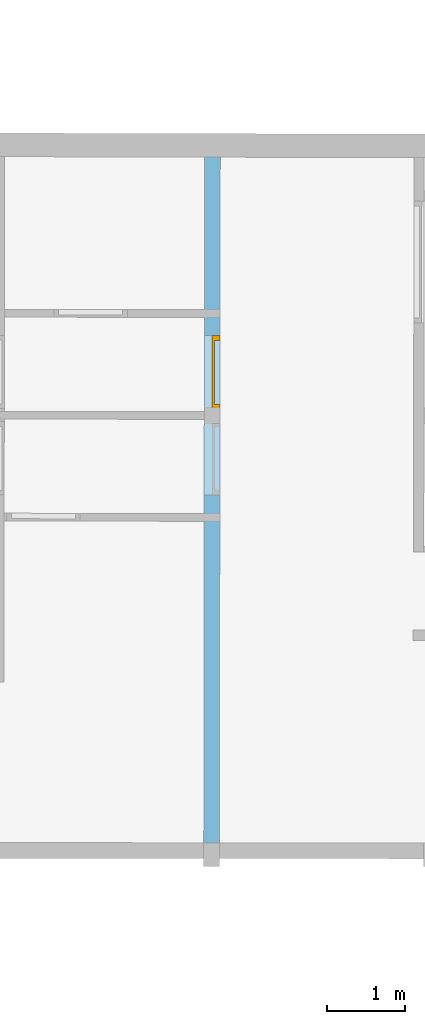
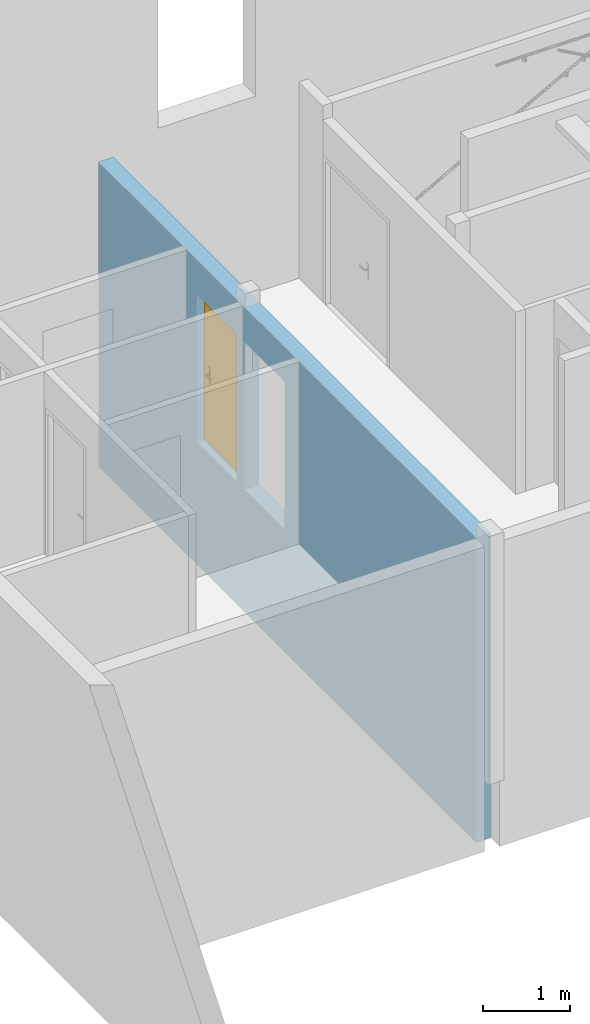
# One storey, part 16 of 24: 1 door, 4 openings, plus 1 element that does not belong to this part.
"""IFC2X3 building model written with IfcOpenShell, lengths in metres."""

from ifc_helpers import new_model, entity, si_unit, converted_unit, derived_unit, direction, frame, frame_2d, origin, place, context, subcontext, project, spatial, polyline, rectangle, outline, extrude, faceted_brep, source, transform, mapped, material, material_list, layer, layer_set, layer_usage, type_object, type_shapes, element, fill, save


model = new_model("IFC2X3")

# Units and contexts
model_context = context("Model", 3, precision=1e-05, world=origin(), true_north=direction((6.123233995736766e-17, 1.0)))
body_context = subcontext(model_context, "Body", "Model", "MODEL_VIEW")
ifc_project = project(units=[si_unit("LENGTHUNIT", "METRE"), si_unit("AREAUNIT", "SQUARE_METRE"), converted_unit("PLANEANGLEUNIT", "DEGREE", entity("IfcPlaneAngleMeasure", 0.017453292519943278), si_unit("PLANEANGLEUNIT", "RADIAN"), dimensions=[0, 0, 0, 0, 0, 0, 0]), derived_unit("THERMALTRANSMITTANCEUNIT", [(si_unit("MASSUNIT", "GRAM", prefix="KILO"), 1), (si_unit("THERMODYNAMICTEMPERATUREUNIT", "KELVIN"), -1), (si_unit("TIMEUNIT", "SECOND"), -3)])], contexts=[model_context])

# Site, building, storey
site_placement = place(None, frame((1253.6752467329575, 2072.143113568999, 91.49999999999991), z_axis=(0.0, 0.0, 1.0), x_axis=(0.7237211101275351, 0.6900925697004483, 0.0)))
site = spatial("IfcSite", under=ifc_project, at=site_placement, Name="Surface", CompositionType="ELEMENT")
building_placement = place(site_placement, origin())
building = spatial("IfcBuilding", under=site, at=building_placement, CompositionType="ELEMENT")
storey_placement = place(building_placement, frame((0.0, 0.0, -7.049999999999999)))
storey = spatial("IfcBuildingStorey", under=building, at=storey_placement, Name="R-1", CompositionType="ELEMENT", Elevation=-7.049999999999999)

# Wall, openings, door
ifc_material_1 = material(Name="Béton - Béton coulé sur place")
ifc_layer = layer(ifc_material_1, 0.2)
ifc_layer_set = layer_set([ifc_layer], Name="Mur de base:MUR 20")
ifc_layer_usage = layer_usage(ifc_layer_set, "AXIS2", "NEGATIVE", 0.1)
wall_type = type_object("IfcWallType", Name="Mur de base:MUR 20", PredefinedType="STANDARD", material=ifc_layer_set)
wall_placement = place(storey_placement, frame((170.03077512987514, 23.668757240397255, -1.0), z_axis=(0.0, 0.0, 1.0), x_axis=(-0.6909838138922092, -0.7228702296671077, 0.0)))
wall = element("IfcWallStandardCase", 1, at=wall_placement, inside=storey, type_object=wall_type, material=ifc_layer_usage, Name="Mur de base:MUR 20", ObjectType="Mur de base:MUR 20", context=body_context, shape_type="SweptSolid", body=[
    extrude(outline(polyline([(-0.10000000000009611, -4.371726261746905), (0.09999999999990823, -4.371726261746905), (0.1000000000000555, 4.3715890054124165), (-0.09999999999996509, 4.371863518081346), (-0.10000000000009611, -4.371726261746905)])), frame((4.371863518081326, 0.0, 0.0), z_axis=(0.0, 0.0, 1.0), x_axis=(0.0, 1.0, 0.0)), (0.0, 0.0, 1.0), 4.299999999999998),
])
opening_1_placement = place(storey_placement, frame((170.03077512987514, 23.668757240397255, -1.0), z_axis=(0.0, 0.0, 1.0), x_axis=(-0.6909838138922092, -0.7228702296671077, 0.0)))
element("IfcOpeningElement", 2, at=opening_1_placement, cuts=wall, Name="Mur de base:MUR 20:1", ObjectType="Opening", context=body_context, shape_type="SweptSolid", body=[
    extrude(rectangle(XDim=2.0850000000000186, YDim=0.9349999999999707, at=frame_2d((-5.551115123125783e-16, -1.582067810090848e-15), x_axis=(1.0, 0.0))), frame((3.8435897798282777, 0.09999999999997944, 2.7725000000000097), z_axis=(0.0, -1.0, 0.0), x_axis=(0.0, 0.0, 1.0)), (0.0, 0.0, 1.0), 0.19999999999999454),
])
opening_2_placement = place(storey_placement, frame((170.03077512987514, 23.668757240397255, -1.0), z_axis=(0.0, 0.0, 1.0), x_axis=(-0.6909838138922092, -0.7228702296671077, 0.0)))
element("IfcOpeningElement", 3, at=opening_2_placement, cuts=wall, Name="Mur de base:MUR 20:2", ObjectType="Opening", context=body_context, shape_type="SweptSolid", body=[
    extrude(rectangle(XDim=2.0850000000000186, YDim=0.9350000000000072, at=frame_2d((-1.6681100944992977e-14, 5.551115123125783e-16), x_axis=(0.0, 1.0))), frame((2.7435897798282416, 0.09999999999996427, 2.772500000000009), z_axis=(0.0, -1.0, 0.0), x_axis=(1.0, 0.0, 0.0)), (0.0, 0.0, 1.0), 0.1999999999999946),
])
opening_3_placement = place(wall_placement, frame((3.2110897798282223, 0.10000000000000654, 1.7299999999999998)))
opening_3 = element("IfcOpeningElement", 4, at=opening_3_placement, cuts=wall, Name="OMD_Porte 1V tunnel:80x204:1", ObjectType="Opening", context=body_context, shape_type="SweptSolid", body=[
    extrude(rectangle(XDim=2.0850000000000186, YDim=0.9349999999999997, at=frame_2d((1.0425000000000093, 0.46749999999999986), x_axis=(1.0, 0.0))), frame((0.0, 0.0, 0.0), z_axis=(0.0, -1.0, 0.0), x_axis=(0.0, 0.0, 1.0)), (0.0, 0.0, 1.0), 0.19999999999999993),
])
opening_4_placement = place(wall_placement, frame((4.311089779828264, 0.1000000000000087, 1.7299999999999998)))
element("IfcOpeningElement", 5, at=opening_4_placement, cuts=wall, Name="OMD_Porte 1V tunnel:80x204:1", ObjectType="Opening", context=body_context, shape_type="SweptSolid", body=[
    extrude(rectangle(XDim=2.0850000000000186, YDim=0.9349999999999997, at=frame_2d((1.0425000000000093, 0.46749999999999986), x_axis=(1.0, 0.0))), frame((0.0, 0.0, 0.0), z_axis=(0.0, -1.0, 0.0), x_axis=(0.0, 0.0, 1.0)), (0.0, 0.0, 1.0), 0.19999999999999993),
])
ifc_material_2 = material(Name="Porte - Poignée")
ifc_material_3 = material(Name="OMD_Peinture mur")
ifc_material_4 = material(Name="OMD_Bois")
ifc_material_list = material_list([ifc_material_2, ifc_material_3, ifc_material_4])
door_style = type_object("IfcDoorStyle", Name="OMD_Porte 1V tunnel:80x204", ConstructionType="NOTDEFINED", OperationType="NOTDEFINED", ParameterTakesPrecedence=False, Sizeable=False, material=ifc_material_list)
shared_shape = source(origin(), body_context, "Body", "Brep", [
    faceted_brep([(0.21297470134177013, 0.13500000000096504, 1.0077804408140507), (0.2090000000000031, 0.13500000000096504, 1.0069999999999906), (0.20899999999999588, 0.13500000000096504, 0.9929999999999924), (0.21297470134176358, 0.13500000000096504, 0.9922195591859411), (0.2170252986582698, 0.13500000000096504, 0.9922195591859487), (0.2210000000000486, 0.13500000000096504, 0.9930000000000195), (0.2210000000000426, 0.13500000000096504, 1.0069999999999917), (0.21702529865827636, 0.13500000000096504, 1.007780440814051), (0.22100000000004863, 0.15748520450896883, 0.9930000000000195), (0.2210000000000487, 0.15748520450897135, 1.0069999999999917), (0.21702529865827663, 0.15913157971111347, 1.007780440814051), (0.230838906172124, 0.17294518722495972, 1.007780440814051), (0.2291610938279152, 0.17699578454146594, 1.0077804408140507), (0.21297470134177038, 0.1608093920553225, 1.0077804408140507), (0.320684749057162, 0.16646731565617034, 1.0077804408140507), (0.3235489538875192, 0.16933152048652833, 1.0077804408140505), (0.3158846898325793, 0.17699578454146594, 1.0077804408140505), (0.3142068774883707, 0.1729451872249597, 1.0077804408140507), (0.20900000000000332, 0.16245576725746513, 1.0069999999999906), (0.2090000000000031, 0.1624557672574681, 0.9929999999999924), (0.21297470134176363, 0.16080939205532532, 0.9922195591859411), (0.22916109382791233, 0.1769957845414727, 0.9922195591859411), (0.2308389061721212, 0.17294518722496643, 0.9922195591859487), (0.21702529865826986, 0.15913157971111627, 0.9922195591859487), (0.32354895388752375, 0.1693315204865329, 0.9922195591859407), (0.3206847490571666, 0.16646731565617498, 0.9922195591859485), (0.31420687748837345, 0.17294518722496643, 0.9922195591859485), (0.31588468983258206, 0.1769957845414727, 0.9922195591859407), (0.2324852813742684, 0.16897048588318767, 0.9930000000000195), (0.23248528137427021, 0.16897048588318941, 1.0069999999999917), (0.22751471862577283, 0.18097048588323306, 1.0069999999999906), (0.2275147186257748, 0.1809704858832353, 0.9929999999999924), (0.2725228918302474, 0.16897048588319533, 0.9930000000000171), (0.31256050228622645, 0.16897048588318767, 0.9930000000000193), (0.3125605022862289, 0.16897048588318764, 1.0069999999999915), (0.2725228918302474, 0.1689704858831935, 1.0069999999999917), (0.2725228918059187, 0.1751249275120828, 1.0078781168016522), (0.31753106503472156, 0.18097048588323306, 1.0069999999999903), (0.2776005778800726, 0.18097048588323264, 1.0069999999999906), (0.3175310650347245, 0.1809704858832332, 0.9929999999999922), (0.2674452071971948, 0.18097048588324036, 0.9929999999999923), (0.27252289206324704, 0.17512492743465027, 0.9921218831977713), (0.3178742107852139, 0.1636567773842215, 0.9930000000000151), (0.3263594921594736, 0.17214205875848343, 0.99299999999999), (0.3263594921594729, 0.1721420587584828, 1.0069999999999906), (0.3178742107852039, 0.16365677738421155, 1.0069999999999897)], [[[0, 1, 2, 3, 4, 5, 6, 7]], [[6, 5, 8, 9]], [[9, 10, 7, 6]], [[10, 11, 12, 13, 0, 7]], [[14, 15, 16, 17]], [[13, 18, 1, 0]], [[2, 1, 18, 19]], [[19, 20, 3, 2]], [[20, 21, 22, 23, 4, 3]], [[24, 25, 26, 27]], [[23, 8, 5, 4]], [[9, 8, 28, 29]], [[29, 11, 10, 9]], [[12, 30, 18, 13]], [[19, 18, 30, 31]], [[31, 21, 20, 19]], [[22, 28, 8, 23]], [[29, 28, 32, 33, 34, 35]], [[11, 35, 36]], [[16, 37, 38]], [[30, 12, 38]], [[38, 12, 36]], [[36, 35, 17]], [[17, 16, 36]], [[35, 11, 29]], [[34, 17, 35]], [[11, 36, 12]], [[38, 36, 16]], [[31, 30, 38, 37, 39, 40]], [[40, 41, 21]], [[41, 40, 27]], [[21, 31, 40]], [[39, 27, 40]], [[41, 32, 22]], [[22, 21, 41]], [[26, 32, 41]], [[28, 22, 32]], [[32, 26, 33]], [[26, 41, 27]], [[42, 25, 24, 43, 44, 15, 14, 45]], [[34, 33, 42, 45]], [[45, 14, 17, 34]], [[15, 44, 37, 16]], [[39, 37, 44, 43]], [[43, 24, 27, 39]], [[25, 42, 33, 26]]]),
    faceted_brep([(0.21297470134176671, 0.09500000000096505, 1.0077804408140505), (0.21702529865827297, 0.09500000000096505, 1.007780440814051), (0.22100000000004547, 0.09500000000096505, 1.006999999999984), (0.22100000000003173, 0.09500000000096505, 0.9930000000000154), (0.21702529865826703, 0.09500000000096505, 0.9922195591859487), (0.2129747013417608, 0.09500000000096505, 0.992219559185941), (0.20899999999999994, 0.09500000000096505, 0.992999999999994), (0.2090000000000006, 0.09500000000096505, 1.0069999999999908), (0.20900000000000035, 0.06734904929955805, 1.0069999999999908), (0.21297470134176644, 0.06899542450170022, 1.0077804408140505), (0.22902358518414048, 0.05294654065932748, 1.0077804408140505), (0.2307013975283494, 0.0569971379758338, 1.007780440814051), (0.2170252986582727, 0.07067323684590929, 1.007780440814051), (0.32352181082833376, 0.06061080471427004, 1.0077804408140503), (0.32065760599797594, 0.0634750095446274, 1.0077804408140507), (0.31417973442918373, 0.0569971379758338, 1.0077804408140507), (0.3158575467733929, 0.0529465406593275, 1.0077804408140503), (0.22100000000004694, 0.07231961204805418, 1.0069999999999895), (0.22100000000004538, 0.07231961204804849, 0.9930000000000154), (0.21702529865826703, 0.07067323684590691, 0.9922195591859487), (0.23070139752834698, 0.05699713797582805, 0.9922195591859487), (0.22902358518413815, 0.05294654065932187, 0.992219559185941), (0.2129747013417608, 0.06899542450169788, 0.992219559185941), (0.32065760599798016, 0.06347500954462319, 0.9922195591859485), (0.323521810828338, 0.06061080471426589, 0.9922195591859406), (0.3158575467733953, 0.05294654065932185, 0.9922195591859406), (0.31417973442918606, 0.056997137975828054, 0.9922195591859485), (0.2089999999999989, 0.06734904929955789, 0.9929999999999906), (0.2273772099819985, 0.048971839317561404, 1.0069999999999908), (0.23234777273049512, 0.060971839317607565, 1.0069999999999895), (0.23234777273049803, 0.060971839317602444, 0.9930000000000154), (0.22737720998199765, 0.048971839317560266, 0.9929999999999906), (0.26730769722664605, 0.04897183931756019, 1.0069999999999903), (0.2724405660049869, 0.054817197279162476, 1.0078781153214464), (0.3175039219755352, 0.04897183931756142, 1.0069999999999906), (0.2724405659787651, 0.060971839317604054, 1.0069999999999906), (0.31253335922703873, 0.060971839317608, 1.0069999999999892), (0.31253335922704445, 0.060971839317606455, 0.9930000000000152), (0.27244056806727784, 0.06097183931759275, 0.9930000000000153), (0.2724405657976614, 0.05481719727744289, 0.9921218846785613), (0.31750392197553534, 0.04897183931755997, 0.9929999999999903), (0.2775734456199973, 0.04897183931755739, 0.9929999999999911), (0.3178470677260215, 0.06628554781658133, 1.0069999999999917), (0.3263323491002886, 0.057800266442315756, 1.0069999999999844), (0.32633234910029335, 0.05780026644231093, 0.9929999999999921), (0.31784706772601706, 0.06628554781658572, 0.9930000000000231)], [[[0, 1, 2, 3, 4, 5, 6, 7]], [[8, 9, 0, 7]], [[9, 10, 11, 12, 1, 0]], [[13, 14, 15, 16]], [[12, 17, 2, 1]], [[3, 2, 17, 18]], [[18, 19, 4, 3]], [[19, 20, 21, 22, 5, 4]], [[23, 24, 25, 26]], [[22, 27, 6, 5]], [[7, 6, 27, 8]], [[28, 10, 9, 8]], [[11, 29, 17, 12]], [[18, 17, 29, 30]], [[30, 20, 19, 18]], [[21, 31, 27, 22]], [[8, 27, 31, 28]], [[32, 33, 10]], [[33, 32, 16]], [[10, 28, 32]], [[34, 16, 32]], [[33, 35, 11]], [[11, 10, 33]], [[15, 35, 33]], [[29, 11, 35]], [[35, 15, 36]], [[15, 33, 16]], [[30, 29, 35, 36, 37, 38]], [[20, 38, 39]], [[25, 40, 41]], [[31, 21, 41]], [[41, 21, 39]], [[39, 38, 26]], [[26, 25, 39]], [[38, 20, 30]], [[37, 26, 38]], [[20, 39, 21]], [[41, 39, 25]], [[28, 31, 41, 40, 34, 32]], [[42, 14, 13, 43, 44, 24, 23, 45]], [[43, 13, 16, 34]], [[14, 42, 36, 15]], [[37, 36, 42, 45]], [[45, 23, 26, 37]], [[24, 44, 40, 25]], [[34, 40, 44, 43]]]),
    faceted_brep([(0.22535276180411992, 0.13000000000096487, 0.8660039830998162), (0.23500000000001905, 0.13000000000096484, 0.8700000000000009), (0.23500000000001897, 0.13000000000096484, 1.0800000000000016), (0.22535276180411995, 0.13000000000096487, 1.0839960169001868), (0.21500000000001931, 0.1300000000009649, 1.0853589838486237), (0.2046472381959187, 0.13000000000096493, 1.0839960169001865), (0.19500000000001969, 0.13000000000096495, 1.0800000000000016), (0.19500000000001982, 0.13000000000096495, 0.8700000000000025), (0.20464723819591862, 0.13000000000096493, 0.866003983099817), (0.2150000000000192, 0.1300000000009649, 0.8646410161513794), (0.22535276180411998, 0.13500000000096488, 1.0839960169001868), (0.23500000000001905, 0.13500000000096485, 1.0800000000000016), (0.2350000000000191, 0.13500000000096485, 0.8700000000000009), (0.22535276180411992, 0.13500000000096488, 0.8660039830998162), (0.21500000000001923, 0.1350000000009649, 0.8646410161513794), (0.2046472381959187, 0.13500000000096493, 0.866003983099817), (0.19500000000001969, 0.135000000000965, 0.8700000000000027), (0.19500000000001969, 0.135000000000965, 1.0800000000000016), (0.2046472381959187, 0.13500000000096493, 1.0839960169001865), (0.21500000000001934, 0.1350000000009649, 1.0853589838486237)], [[[0, 1, 2, 3, 4, 5, 6, 7, 8, 9]], [[10, 11, 12, 13, 14, 15, 16, 17, 18, 19]], [[11, 10, 3, 2]], [[3, 10, 19, 4]], [[19, 18, 5, 4]], [[18, 17, 6, 5]], [[7, 6, 17, 16]], [[16, 15, 8, 7]], [[8, 15, 14, 9]], [[14, 13, 0, 9]], [[13, 12, 1, 0]], [[2, 1, 12, 11]]]),
    faceted_brep([(0.22535276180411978, 0.0950000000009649, 0.8660039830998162), (0.23500000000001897, 0.09500000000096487, 0.8700000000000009), (0.23500000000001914, 0.09500000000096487, 1.0800000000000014), (0.22535276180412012, 0.0950000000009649, 1.0839960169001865), (0.21500000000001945, 0.09500000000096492, 1.0853589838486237), (0.20464723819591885, 0.09500000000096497, 1.0839960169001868), (0.19500000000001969, 0.09500000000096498, 1.0800000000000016), (0.19500000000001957, 0.09500000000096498, 0.8700000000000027), (0.20464723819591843, 0.09500000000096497, 0.8660039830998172), (0.21500000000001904, 0.09500000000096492, 0.8646410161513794), (0.22535276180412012, 0.10000000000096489, 1.0839960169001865), (0.23500000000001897, 0.10000000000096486, 1.0800000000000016), (0.23500000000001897, 0.10000000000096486, 0.8700000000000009), (0.22535276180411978, 0.10000000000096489, 0.8660039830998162), (0.21500000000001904, 0.10000000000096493, 0.8646410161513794), (0.20464723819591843, 0.10000000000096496, 0.8660039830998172), (0.19500000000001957, 0.10000000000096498, 0.8700000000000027), (0.19500000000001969, 0.10000000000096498, 1.0800000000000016), (0.20464723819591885, 0.10000000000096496, 1.0839960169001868), (0.21500000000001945, 0.10000000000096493, 1.0853589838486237)], [[[0, 1, 2, 3, 4, 5, 6, 7, 8, 9]], [[10, 11, 12, 13, 14, 15, 16, 17, 18, 19]], [[16, 15, 8, 7]], [[8, 15, 14, 9]], [[14, 13, 0, 9]], [[13, 12, 1, 0]], [[2, 1, 12, 11]], [[11, 10, 3, 2]], [[3, 10, 19, 4]], [[19, 18, 5, 4]], [[18, 17, 6, 5]], [[7, 6, 17, 16]]]),
    faceted_brep([(0.14500000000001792, 0.13000000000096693, 0.0), (0.9900000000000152, 0.13000000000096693, 0.0), (0.9900000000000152, 0.10000000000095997, 0.0), (0.14500000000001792, 0.10000000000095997, 0.0), (0.14500000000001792, 0.13000000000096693, 2.04), (0.14500000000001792, 0.10000000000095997, 2.04), (0.9900000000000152, 0.10000000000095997, 2.04), (0.9900000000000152, 0.13000000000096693, 2.04)], [[[0, 1, 2, 3]], [[4, 0, 3, 5]], [[5, 3, 2, 6]], [[6, 2, 1, 7]], [[7, 1, 0, 4]], [[4, 5, 6, 7]]]),
    faceted_brep([(0.10000000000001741, 0.10000000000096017, 0.0), (0.10000000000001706, 0.20000000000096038, 0.0), (0.16000000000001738, 0.20000000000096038, 0.0), (0.16000000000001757, 0.13000000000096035, 0.0), (0.1450000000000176, 0.13000000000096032, 0.0), (0.1450000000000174, 0.10000000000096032, 0.0), (0.1450000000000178, 0.1000000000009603, 2.04), (0.9900000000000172, 0.10000000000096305, 2.0399999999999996), (0.9900000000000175, 0.10000000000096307, 0.0), (1.0350000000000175, 0.10000000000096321, 0.0), (1.0350000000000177, 0.10000000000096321, 2.0850000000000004), (0.10000000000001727, 0.10000000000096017, 2.0850000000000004), (0.14500000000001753, 0.13000000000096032, 2.04), (0.16000000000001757, 0.13000000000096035, 2.0250000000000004), (0.9750000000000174, 0.13000000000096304, 2.0250000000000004), (0.9750000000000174, 0.13000000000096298, 0.0), (0.9900000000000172, 0.13000000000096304, 0.0), (0.9900000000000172, 0.13000000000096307, 2.04), (0.16000000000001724, 0.20000000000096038, 2.0250000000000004), (0.10000000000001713, 0.20000000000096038, 2.0850000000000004), (1.0350000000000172, 0.2000000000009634, 2.0850000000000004), (1.0350000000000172, 0.20000000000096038, 0.0), (0.9750000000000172, 0.20000000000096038, 0.0), (0.9750000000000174, 0.20000000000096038, 2.0250000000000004)], [[[0, 1, 2, 3, 4, 5]], [[5, 6, 7, 8, 9, 10, 11, 0]], [[4, 12, 6, 5]], [[3, 13, 14, 15, 16, 17, 12, 4]], [[2, 18, 13, 3]], [[1, 19, 20, 21, 22, 23, 18, 2]], [[0, 11, 19, 1]], [[10, 9, 21, 20]], [[9, 8, 16, 15, 22, 21]], [[17, 16, 8, 7]], [[23, 22, 15, 14]], [[12, 17, 7, 6]], [[18, 23, 14, 13]], [[11, 10, 20, 19]]]),
])
type_shapes(door_style, [shared_shape])
door_placement = place(opening_3_placement, frame((-1.0349999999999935, -0.20000000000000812, 0.0)))
door = element("IfcDoor", 6, at=door_placement, inside=storey, type_object=door_style, material=ifc_material_list, Name="OMD_Porte 1V tunnel:80x204", ObjectType="OMD_Porte 1V tunnel:80x204", OverallHeight=2.0850000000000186, OverallWidth=0.9349999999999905, context=body_context, shape_type="MappedRepresentation", body=[
    mapped(shared_shape, transform((0.0, 0.0, 0.0), scale=1.0)),
])
fill(opening_3, door)

save(model, "model.ifc")
